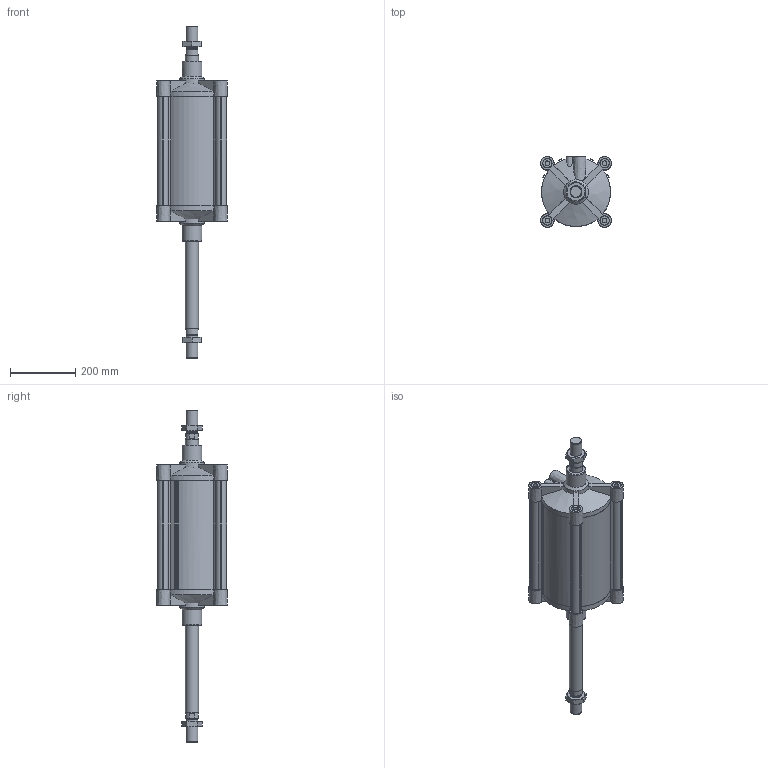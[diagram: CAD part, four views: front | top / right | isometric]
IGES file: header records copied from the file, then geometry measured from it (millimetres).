
Global section: file name: 139#_200_0250_02; native system: Autodesk Inventor 2014; preprocessor: unknown; author: F. Piloni; organization: Pneumax S.p.A.; date: 20151120.143222; units: millimetre
Bounding box: 215.98 x 215.99 x 1014 mm (x, y, z)
Volume: 8450599.5 mm3; surface area: 1234905.7 mm2
Topology: 6 solids, 6 shells, 324 faces, 844 edges, 567 vertices
Faces by surface type: bspline 324
